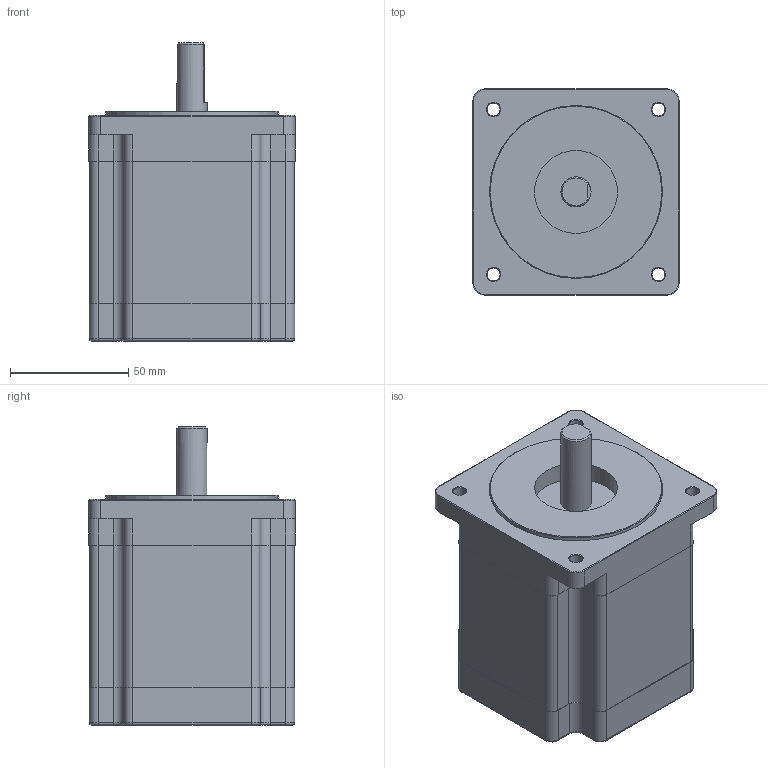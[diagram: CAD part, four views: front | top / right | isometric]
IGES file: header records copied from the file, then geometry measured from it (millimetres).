
Global section: file name: No Iges File Name specified; native system: Autodesk Inventor 2012; preprocessor: AutoDesk Inventor Iges Exporter R2012; author: Sergio Martins; date: 20121015.161840; units: millimetre
Bounding box: 87 x 87 x 125.85 mm (x, y, z)
Volume: 640759.1 mm3; surface area: 49308.9 mm2
Topology: 1 solids, 1 shells, 351 faces, 948 edges, 621 vertices
Faces by surface type: plane 208, bspline 58, cylinder 46, revolution 21, torus 16, cone 2
Full cylindrical faces by diameter (mm): 12.7 x1, 73 x1
